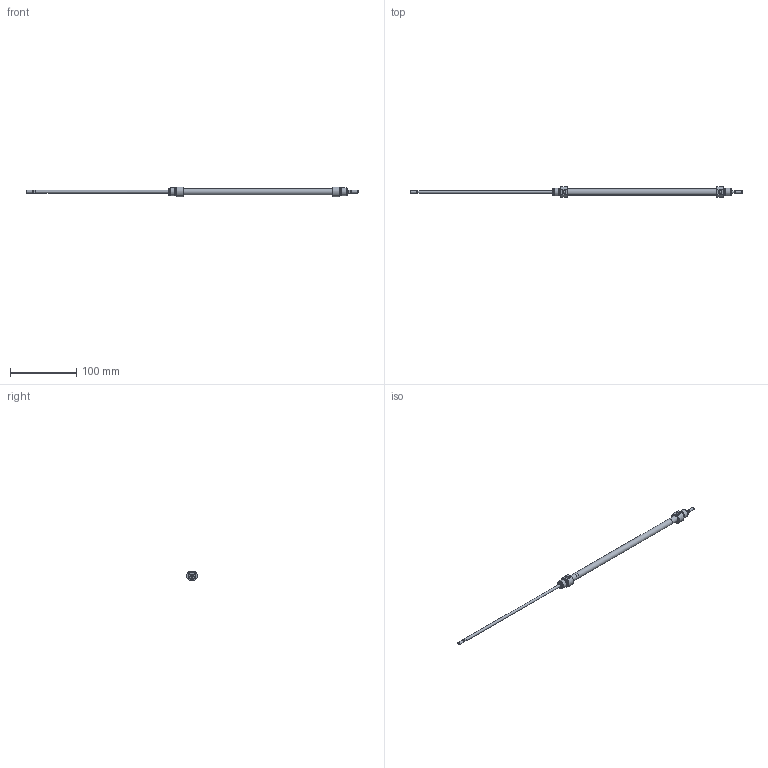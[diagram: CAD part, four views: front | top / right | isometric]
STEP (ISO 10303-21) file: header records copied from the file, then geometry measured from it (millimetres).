
FILE_DESCRIPTION( ( 'STEP AP203' ), '1' );
FILE_NAME( '//expscmdclustefs.cadenas.external/client_exchange/iodir/jobs/output/wkb68263125_no0/STEP/M101-08-0200--__0__2_03.stp', ' ', ( ' ' ), ( ' ' ), 'PSStep 15.0.47', 'PARTsolutions', ' ' );
FILE_SCHEMA( ( 'CONFIG_CONTROL_DESIGN' ) );
Length unit declared in the file: millimetre
Products named in the file (3): M101-08-0200-- [0]; HI_M101-08-0200---[0]-z; HI_M101-08-0200---[0]-k
Assembly tree (2 placements, depth 2):
  M101-08-0200-- [0]
    HI_M101-08-0200---[0]-z
    HI_M101-08-0200---[0]-k
Bounding box: 502 x 15.98 x 14.97 mm (x, y, z)
Volume: 17010.9 mm3; surface area: 21699.1 mm2
Topology: 2 solids, 2 shells, 71 faces, 145 edges, 88 vertices
Faces by surface type: plane 32, cylinder 23, cone 14, torus 2
Full cylindrical faces by diameter (mm): 3.141 x2, 4 x6, 4.134 x2, 8 x2, 9.3 x1, 10.466 x4, 12 x4
Entity records: 1838 total; most frequent: CARTESIAN_POINT 358, DIRECTION 312, ORIENTED_EDGE 212, AXIS2_PLACEMENT_3D 140, EDGE_LOOP 120, EDGE_CURVE 106, FACE_OUTER_BOUND 94, VERTEX_POINT 82
